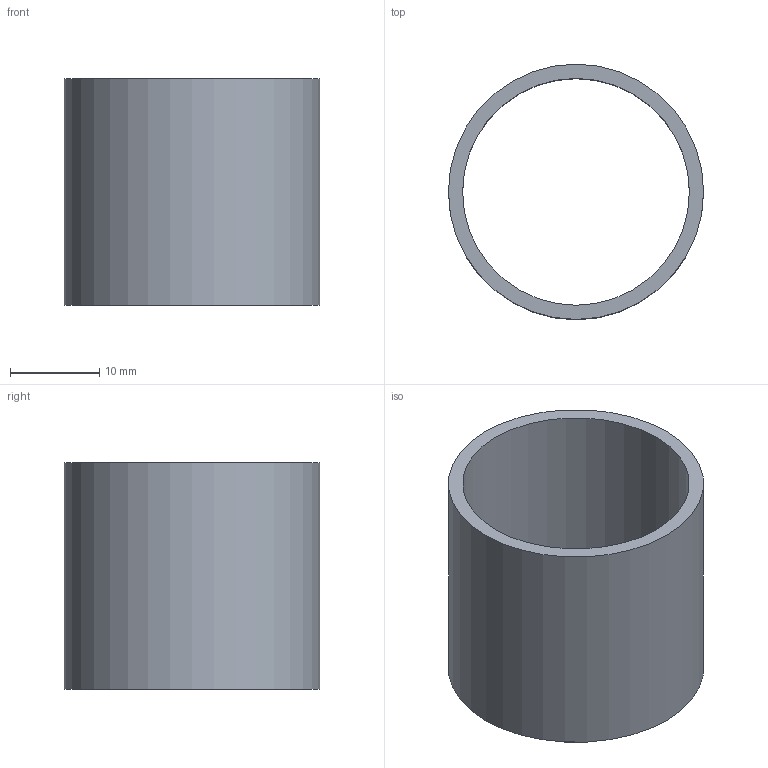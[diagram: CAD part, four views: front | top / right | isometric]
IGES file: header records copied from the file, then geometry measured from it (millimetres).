
Global section: file name: No Iges File Name specified; native system: AutoDesk Inventor R6.0; preprocessor: AutoDesk Inventor Iges Exporter R6.0; author: No Author specified; organization: No Organization specified; date: 20080121.073113; units: inch
Bounding box: 28.57 x 28.57 x 25.4 mm (x, y, z)
Surface area: 4576.2 mm2 (no closed solid volume)
Topology: 0 solids, 0 shells, 4 faces, 10 edges, 8 vertices
Faces by surface type: revolution 2, plane 2
